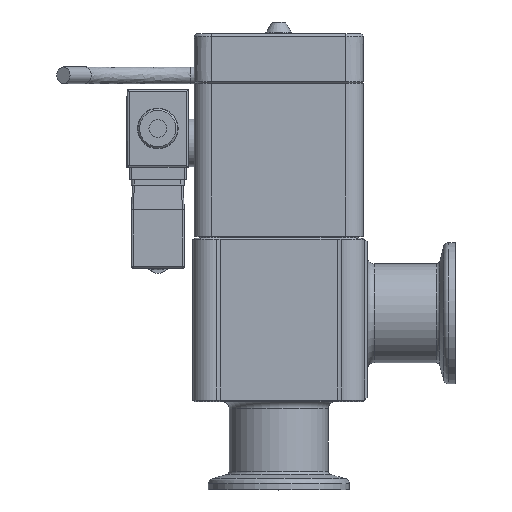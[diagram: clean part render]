
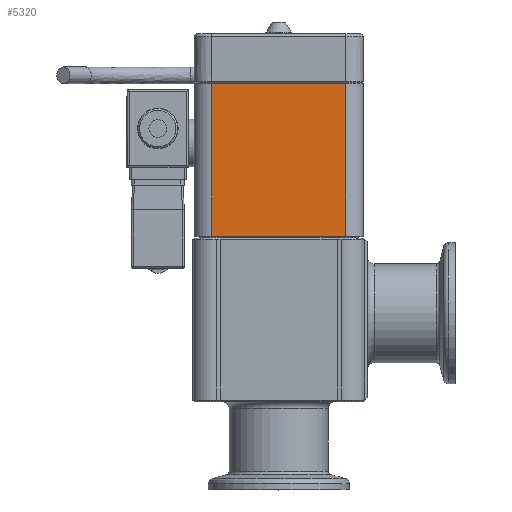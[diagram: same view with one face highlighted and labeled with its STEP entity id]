
A CAD part, top view. The second image highlights one B-rep face of the part: STEP entity #5320.
In plain terms, the highlighted planar face has unit normal (0, 0, 1) as drawn and (0, 0, -1) by its records, which use the part's own axes.
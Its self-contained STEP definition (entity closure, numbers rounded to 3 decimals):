
#2568=FACE_OUTER_BOUND('',#6891,.T.);
#2982=PLANE('',#13891);
#3558=LINE('',#19463,#4464);
#3563=LINE('',#19499,#4469);
#3564=LINE('',#19511,#4470);
#3565=LINE('',#19513,#4471);
#4464=VECTOR('',#15854,1.);
#4469=VECTOR('',#15887,1.);
#4470=VECTOR('',#15900,1.);
#4471=VECTOR('',#15903,1.);
#5320=ADVANCED_FACE('',(#2568),#2982,.F.);
#6891=EDGE_LOOP('',(#8600,#8601,#8602,#8603));
#8600=ORIENTED_EDGE('',*,*,#12029,.T.);
#8601=ORIENTED_EDGE('',*,*,#12036,.F.);
#8602=ORIENTED_EDGE('',*,*,#12011,.F.);
#8603=ORIENTED_EDGE('',*,*,#12035,.T.);
#10799=VERTEX_POINT('',#19462);
#10800=VERTEX_POINT('',#19464);
#10816=VERTEX_POINT('',#19498);
#10817=VERTEX_POINT('',#19500);
#12011=EDGE_CURVE('',#10799,#10800,#3558,.T.);
#12029=EDGE_CURVE('',#10817,#10816,#3563,.T.);
#12035=EDGE_CURVE('',#10799,#10817,#3564,.T.);
#12036=EDGE_CURVE('',#10800,#10816,#3565,.T.);
#13891=AXIS2_PLACEMENT_3D('',#19514,#15904,#15905);
#15854=DIRECTION('',(-1.,0.,0.));
#15887=DIRECTION('',(-1.,0.,0.));
#15900=DIRECTION('',(0.,-1.,0.));
#15903=DIRECTION('',(0.,-1.,0.));
#15904=DIRECTION('',(0.,0.,1.));
#15905=DIRECTION('',(1.,0.,0.));
#19462=CARTESIAN_POINT('',(19.,43.3,-24.));
#19463=CARTESIAN_POINT('',(19.,43.3,-24.));
#19464=CARTESIAN_POINT('',(-19.,43.3,-24.));
#19498=CARTESIAN_POINT('',(-19.,0.,-24.));
#19499=CARTESIAN_POINT('',(19.,0.,-24.));
#19500=CARTESIAN_POINT('',(19.,0.,-24.));
#19511=CARTESIAN_POINT('',(19.,43.3,-24.));
#19513=CARTESIAN_POINT('',(-19.,43.3,-24.));
#19514=CARTESIAN_POINT('',(19.,43.3,-24.));
